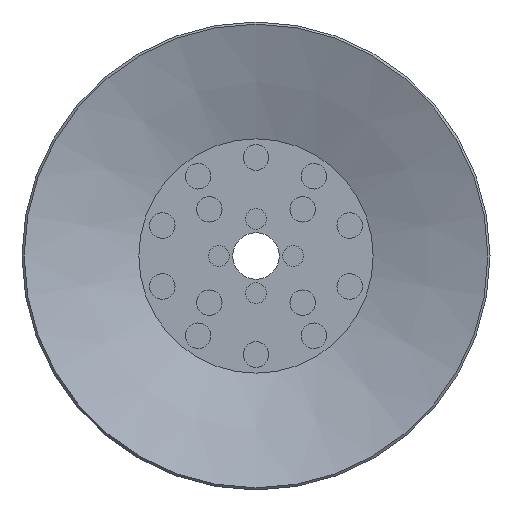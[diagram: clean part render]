
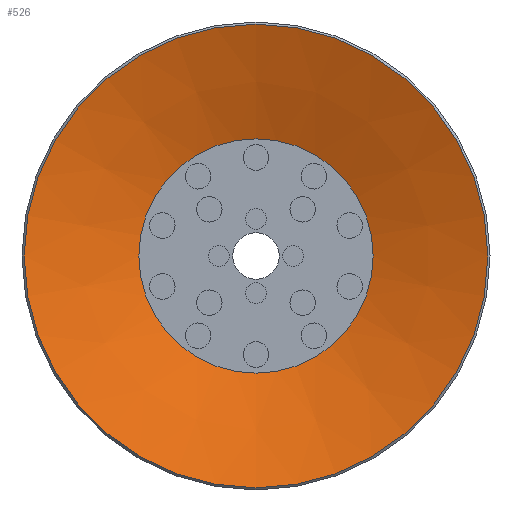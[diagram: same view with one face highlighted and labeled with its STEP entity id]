
A CAD part, front view. The second image highlights one B-rep face of the part: STEP entity #526.
In plain terms, the highlighted conical face has half-angle 70 degrees and reference radius 10 mm.
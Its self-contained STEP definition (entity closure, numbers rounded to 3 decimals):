
#526=ADVANCED_FACE('',(#774,#775),#776,.F.);
#774=FACE_BOUND('',#1161,.T.);
#775=FACE_OUTER_BOUND('',#1162,.T.);
#776=CONICAL_SURFACE('',#1163,10.0,1.222);
#1161=EDGE_LOOP('',(#1839));
#1162=EDGE_LOOP('',(#1840));
#1163=AXIS2_PLACEMENT_3D('',#1841,#1842,#1843);
#1839=ORIENTED_EDGE('',*,*,#2352,.T.);
#1840=ORIENTED_EDGE('',*,*,#2353,.F.);
#1841=CARTESIAN_POINT('',(0.0,0.,0.));
#1842=DIRECTION('',(0.0,0.,-1.0));
#1843=DIRECTION('',(0.0,1.0,0.));
#2352=EDGE_CURVE('',#2648,#2648,#2649,.T.);
#2353=EDGE_CURVE('',#2650,#2650,#2651,.T.);
#2648=VERTEX_POINT('',#3332);
#2649=CIRCLE('',#3333,5.055);
#2650=VERTEX_POINT('',#3334);
#2651=CIRCLE('',#3335,10.0);
#3332=CARTESIAN_POINT('',(0.0,-5.055,1.8));
#3333=AXIS2_PLACEMENT_3D('',#3702,#3703,#3704);
#3334=CARTESIAN_POINT('',(0.0,-10.0,0.));
#3335=AXIS2_PLACEMENT_3D('',#3705,#3706,#3707);
#3702=CARTESIAN_POINT('',(0.0,0.,1.8));
#3703=DIRECTION('',(0.0,0.,1.0));
#3704=DIRECTION('',(0.0,-1.0,0.));
#3705=CARTESIAN_POINT('',(0.0,0.,0.));
#3706=DIRECTION('',(0.0,0.,1.0));
#3707=DIRECTION('',(0.0,-1.0,0.));
